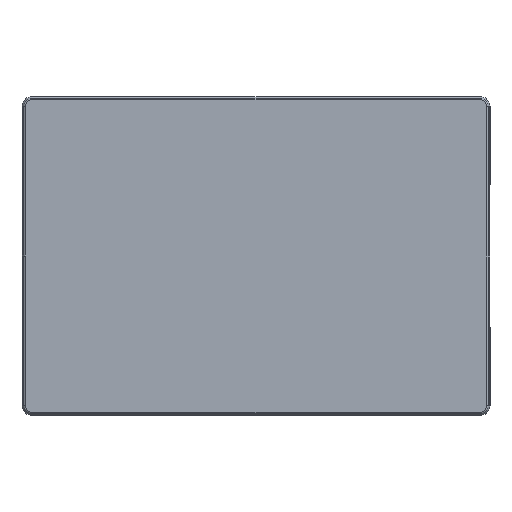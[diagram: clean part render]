
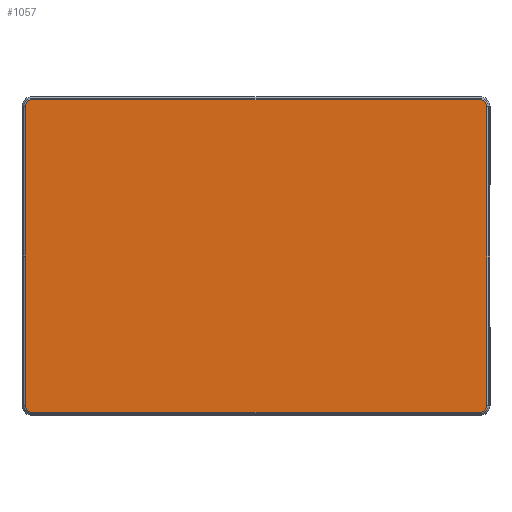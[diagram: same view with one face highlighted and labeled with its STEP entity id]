
A CAD part, front view. The second image highlights one B-rep face of the part: STEP entity #1057.
In plain terms, the highlighted planar face has unit normal (0, -1, 0).
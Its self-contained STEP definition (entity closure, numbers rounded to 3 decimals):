
#92 = CARTESIAN_POINT ( 'NONE',  ( -90.1, -0.119, 62.822 ) ) ;
#134 = CARTESIAN_POINT ( 'NONE',  ( 90.1, -0.119, 62.822 ) ) ;
#211 = CARTESIAN_POINT ( 'NONE',  ( -90.1, -0.119, 60.1 ) ) ;
#334 = DIRECTION ( 'NONE',  ( 0., 0., -1. ) ) ;
#356 = DIRECTION ( 'NONE',  ( 0., 0., -1. ) ) ;
#378 = FACE_OUTER_BOUND ( 'NONE', #2964, .T. ) ;
#385 = DIRECTION ( 'NONE',  ( 0., -1., 0. ) ) ;
#450 = EDGE_CURVE ( 'NONE', #2489, #1959, #1351, .T. ) ;
#492 = VERTEX_POINT ( 'NONE', #988 ) ;
#497 = AXIS2_PLACEMENT_3D ( 'NONE', #2055, #385, #334 ) ;
#500 = AXIS2_PLACEMENT_3D ( 'NONE', #2389, #1915, #2851 ) ;
#510 = DIRECTION ( 'NONE',  ( -1., 0., 0. ) ) ;
#529 = EDGE_CURVE ( 'NONE', #2561, #994, #2779, .T. ) ;
#592 = LINE ( 'NONE', #134, #808 ) ;
#726 = CARTESIAN_POINT ( 'NONE',  ( 92.822, -0.119, 60.1 ) ) ;
#729 = EDGE_CURVE ( 'NONE', #492, #2429, #592, .T. ) ;
#750 = CIRCLE ( 'NONE', #2522, 2.722 ) ;
#770 = DIRECTION ( 'NONE',  ( 0., 0., 1. ) ) ;
#800 = VECTOR ( 'NONE', #2074, 1000. ) ;
#807 = LINE ( 'NONE', #1721, #2578 ) ;
#808 = VECTOR ( 'NONE', #2041, 1000. ) ;
#872 = EDGE_CURVE ( 'NONE', #994, #3098, #1487, .T. ) ;
#885 = EDGE_CURVE ( 'NONE', #2482, #1509, #807, .T. ) ;
#895 = ORIENTED_EDGE ( 'NONE', *, *, #2644, .T. ) ;
#977 = CARTESIAN_POINT ( 'NONE',  ( -92.822, -0.119, 60.1 ) ) ;
#988 = CARTESIAN_POINT ( 'NONE',  ( 90.1, -0.119, 62.822 ) ) ;
#994 = VERTEX_POINT ( 'NONE', #2727 ) ;
#1057 = ADVANCED_FACE ( 'NONE', ( #378 ), #3054, .F. ) ;
#1066 = VECTOR ( 'NONE', #770, 1000. ) ;
#1213 = ORIENTED_EDGE ( 'NONE', *, *, #3080, .T. ) ;
#1229 = CARTESIAN_POINT ( 'NONE',  ( -90.1, -0.119, -62.822 ) ) ;
#1315 = AXIS2_PLACEMENT_3D ( 'NONE', #211, #1656, #1420 ) ;
#1351 = CIRCLE ( 'NONE', #3135, 2.722 ) ;
#1407 = CARTESIAN_POINT ( 'NONE',  ( -90.1, -0.119, -62.822 ) ) ;
#1414 = EDGE_CURVE ( 'NONE', #2429, #2482, #2213, .T. ) ;
#1420 = DIRECTION ( 'NONE',  ( 0., 0., 1. ) ) ;
#1470 = ORIENTED_EDGE ( 'NONE', *, *, #729, .T. ) ;
#1487 = LINE ( 'NONE', #2456, #1066 ) ;
#1509 = VERTEX_POINT ( 'NONE', #2874 ) ;
#1522 = DIRECTION ( 'NONE',  ( 0., 0., -1. ) ) ;
#1656 = DIRECTION ( 'NONE',  ( 0., -1., 0. ) ) ;
#1721 = CARTESIAN_POINT ( 'NONE',  ( -92.822, -0.119, 60.1 ) ) ;
#1729 = DIRECTION ( 'NONE',  ( 0., -1., 0. ) ) ;
#1751 = ORIENTED_EDGE ( 'NONE', *, *, #872, .T. ) ;
#1846 = LINE ( 'NONE', #1407, #800 ) ;
#1894 = ORIENTED_EDGE ( 'NONE', *, *, #450, .T. ) ;
#1915 = DIRECTION ( 'NONE',  ( 0., 1., 0. ) ) ;
#1959 = VERTEX_POINT ( 'NONE', #1229 ) ;
#2019 = ORIENTED_EDGE ( 'NONE', *, *, #529, .T. ) ;
#2041 = DIRECTION ( 'NONE',  ( -1., 0., 0. ) ) ;
#2055 = CARTESIAN_POINT ( 'NONE',  ( 90.1, -0.119, -60.1 ) ) ;
#2057 = CARTESIAN_POINT ( 'NONE',  ( -92.822, -0.119, 0. ) ) ;
#2066 = CARTESIAN_POINT ( 'NONE',  ( 90.1, -0.119, 60.1 ) ) ;
#2074 = DIRECTION ( 'NONE',  ( 1., 0., 0. ) ) ;
#2200 = ORIENTED_EDGE ( 'NONE', *, *, #885, .T. ) ;
#2213 = CIRCLE ( 'NONE', #1315, 2.722 ) ;
#2270 = ORIENTED_EDGE ( 'NONE', *, *, #1414, .T. ) ;
#2387 = ORIENTED_EDGE ( 'NONE', *, *, #2765, .T. ) ;
#2389 = CARTESIAN_POINT ( 'NONE',  ( -90.493, -0.119, 0. ) ) ;
#2429 = VERTEX_POINT ( 'NONE', #92 ) ;
#2451 = CARTESIAN_POINT ( 'NONE',  ( 90.1, -0.119, -62.822 ) ) ;
#2456 = CARTESIAN_POINT ( 'NONE',  ( 92.822, -0.119, -60.1 ) ) ;
#2482 = VERTEX_POINT ( 'NONE', #977 ) ;
#2489 = VERTEX_POINT ( 'NONE', #3136 ) ;
#2522 = AXIS2_PLACEMENT_3D ( 'NONE', #2066, #3053, #3095 ) ;
#2561 = VERTEX_POINT ( 'NONE', #2451 ) ;
#2578 = VECTOR ( 'NONE', #1522, 1000. ) ;
#2644 = EDGE_CURVE ( 'NONE', #1509, #2489, #2737, .T. ) ;
#2681 = CARTESIAN_POINT ( 'NONE',  ( -90.1, -0.119, -60.1 ) ) ;
#2727 = CARTESIAN_POINT ( 'NONE',  ( 92.822, -0.119, -60.1 ) ) ;
#2737 = LINE ( 'NONE', #2057, #2773 ) ;
#2765 = EDGE_CURVE ( 'NONE', #1959, #2561, #1846, .T. ) ;
#2773 = VECTOR ( 'NONE', #356, 1000. ) ;
#2779 = CIRCLE ( 'NONE', #497, 2.722 ) ;
#2851 = DIRECTION ( 'NONE',  ( -1., 0., 0. ) ) ;
#2874 = CARTESIAN_POINT ( 'NONE',  ( -92.822, -0.119, 0. ) ) ;
#2964 = EDGE_LOOP ( 'NONE', ( #895, #1894, #2387, #2019, #1751, #1213, #1470, #2270, #2200 ) ) ;
#3053 = DIRECTION ( 'NONE',  ( 0., -1., 0. ) ) ;
#3054 = PLANE ( 'NONE',  #500 ) ;
#3080 = EDGE_CURVE ( 'NONE', #3098, #492, #750, .T. ) ;
#3095 = DIRECTION ( 'NONE',  ( 1., 0., 0. ) ) ;
#3098 = VERTEX_POINT ( 'NONE', #726 ) ;
#3135 = AXIS2_PLACEMENT_3D ( 'NONE', #2681, #1729, #510 ) ;
#3136 = CARTESIAN_POINT ( 'NONE',  ( -92.822, -0.119, -60.1 ) ) ;
